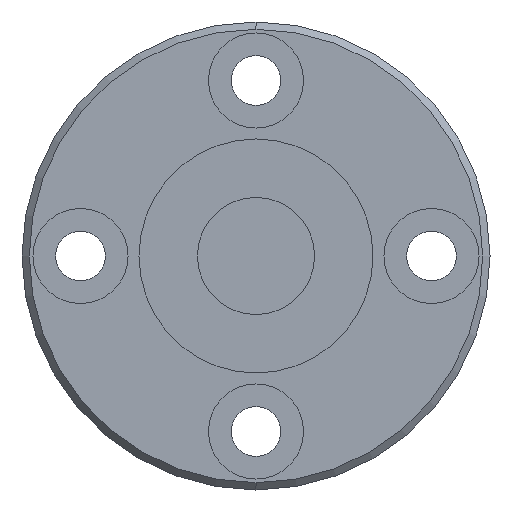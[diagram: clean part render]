
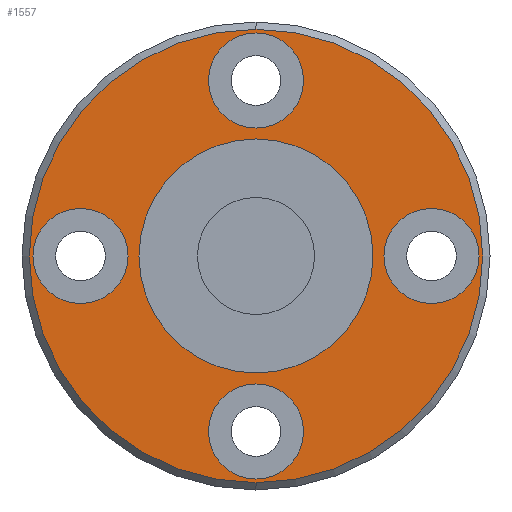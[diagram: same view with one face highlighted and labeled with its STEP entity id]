
A CAD part, left-side view. The second image highlights one B-rep face of the part: STEP entity #1557.
In plain terms, the highlighted planar face has unit normal (-1, 0, 0).
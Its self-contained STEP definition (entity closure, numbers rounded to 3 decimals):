
#33 = FACE_BOUND ( 'NONE', #84, .T. ) ;
#58 = CIRCLE ( 'NONE', #210, 15.5 ) ;
#65 = ORIENTED_EDGE ( 'NONE', *, *, #1017, .F. ) ;
#84 = EDGE_LOOP ( 'NONE', ( #2168, #294 ) ) ;
#91 = EDGE_CURVE ( 'NONE', #950, #1510, #1763, .T. ) ;
#94 = VERTEX_POINT ( 'NONE', #2193 ) ;
#107 = DIRECTION ( 'NONE',  ( -1., 0., 0. ) ) ;
#129 = AXIS2_PLACEMENT_3D ( 'NONE', #914, #1668, #188 ) ;
#147 = CIRCLE ( 'NONE', #1600, 3.25 ) ;
#161 = ORIENTED_EDGE ( 'NONE', *, *, #692, .T. ) ;
#162 = AXIS2_PLACEMENT_3D ( 'NONE', #426, #1727, #1164 ) ;
#172 = EDGE_CURVE ( 'NONE', #1510, #950, #281, .T. ) ;
#188 = DIRECTION ( 'NONE',  ( 0., 0., -1. ) ) ;
#189 = EDGE_CURVE ( 'NONE', #2197, #2047, #206, .T. ) ;
#206 = CIRCLE ( 'NONE', #162, 3.25 ) ;
#210 = AXIS2_PLACEMENT_3D ( 'NONE', #477, #1392, #1937 ) ;
#211 = FACE_BOUND ( 'NONE', #286, .T. ) ;
#281 = CIRCLE ( 'NONE', #2175, 8. ) ;
#286 = EDGE_LOOP ( 'NONE', ( #377, #600 ) ) ;
#294 = ORIENTED_EDGE ( 'NONE', *, *, #1679, .F. ) ;
#302 = CARTESIAN_POINT ( 'NONE',  ( 0., -12., -3.25 ) ) ;
#331 = CARTESIAN_POINT ( 'NONE',  ( 0., 0., 8. ) ) ;
#338 = CARTESIAN_POINT ( 'NONE',  ( 0., 0., -8. ) ) ;
#361 = FACE_BOUND ( 'NONE', #1460, .T. ) ;
#377 = ORIENTED_EDGE ( 'NONE', *, *, #1012, .F. ) ;
#380 = ORIENTED_EDGE ( 'NONE', *, *, #1337, .T. ) ;
#386 = PLANE ( 'NONE',  #129 ) ;
#388 = VERTEX_POINT ( 'NONE', #1421 ) ;
#414 = DIRECTION ( 'NONE',  ( 0., 0., 1. ) ) ;
#426 = CARTESIAN_POINT ( 'NONE',  ( 0., 12., 0. ) ) ;
#438 = DIRECTION ( 'NONE',  ( -1., 0., 0. ) ) ;
#447 = AXIS2_PLACEMENT_3D ( 'NONE', #1195, #438, #414 ) ;
#477 = CARTESIAN_POINT ( 'NONE',  ( 0., 0., 0. ) ) ;
#533 = EDGE_LOOP ( 'NONE', ( #988, #915 ) ) ;
#570 = EDGE_LOOP ( 'NONE', ( #380, #161 ) ) ;
#594 = EDGE_CURVE ( 'NONE', #1793, #1434, #1656, .T. ) ;
#598 = CARTESIAN_POINT ( 'NONE',  ( 0., -12., 0. ) ) ;
#600 = ORIENTED_EDGE ( 'NONE', *, *, #1291, .F. ) ;
#656 = CARTESIAN_POINT ( 'NONE',  ( 0., 0., 0. ) ) ;
#660 = AXIS2_PLACEMENT_3D ( 'NONE', #598, #2018, #1119 ) ;
#686 = DIRECTION ( 'NONE',  ( -1., 0., 0. ) ) ;
#692 = EDGE_CURVE ( 'NONE', #94, #2203, #985, .T. ) ;
#717 = EDGE_CURVE ( 'NONE', #2047, #2197, #1676, .T. ) ;
#720 = FACE_BOUND ( 'NONE', #533, .T. ) ;
#728 = VERTEX_POINT ( 'NONE', #989 ) ;
#743 = CARTESIAN_POINT ( 'NONE',  ( 0., 0., 15.25 ) ) ;
#746 = DIRECTION ( 'NONE',  ( -1., 0., 0. ) ) ;
#914 = CARTESIAN_POINT ( 'NONE',  ( 0., 16., 0. ) ) ;
#915 = ORIENTED_EDGE ( 'NONE', *, *, #189, .F. ) ;
#945 = DIRECTION ( 'NONE',  ( -1., 0., 0. ) ) ;
#949 = DIRECTION ( 'NONE',  ( -1., 0., 0. ) ) ;
#950 = VERTEX_POINT ( 'NONE', #331 ) ;
#970 = CARTESIAN_POINT ( 'NONE',  ( 0., 0., 0. ) ) ;
#972 = AXIS2_PLACEMENT_3D ( 'NONE', #1325, #945, #1987 ) ;
#981 = DIRECTION ( 'NONE',  ( 0., 0., 1. ) ) ;
#985 = CIRCLE ( 'NONE', #1301, 15.5 ) ;
#988 = ORIENTED_EDGE ( 'NONE', *, *, #717, .F. ) ;
#989 = CARTESIAN_POINT ( 'NONE',  ( 0., 0., -8.75 ) ) ;
#1012 = EDGE_CURVE ( 'NONE', #728, #1450, #2154, .T. ) ;
#1017 = EDGE_CURVE ( 'NONE', #388, #1936, #147, .T. ) ;
#1022 = DIRECTION ( 'NONE',  ( 0., 1., 0. ) ) ;
#1048 = CIRCLE ( 'NONE', #972, 3.25 ) ;
#1119 = DIRECTION ( 'NONE',  ( 0., 0., -1. ) ) ;
#1164 = DIRECTION ( 'NONE',  ( 0., 0., 1. ) ) ;
#1195 = CARTESIAN_POINT ( 'NONE',  ( 0., 12., 0. ) ) ;
#1211 = CARTESIAN_POINT ( 'NONE',  ( 0., 0., -15.5 ) ) ;
#1215 = CARTESIAN_POINT ( 'NONE',  ( 0., 0., -15.25 ) ) ;
#1232 = CARTESIAN_POINT ( 'NONE',  ( 0., 0., -12. ) ) ;
#1245 = CARTESIAN_POINT ( 'NONE',  ( 0., 0., 12. ) ) ;
#1291 = EDGE_CURVE ( 'NONE', #1450, #728, #2299, .T. ) ;
#1301 = AXIS2_PLACEMENT_3D ( 'NONE', #1701, #2254, #2286 ) ;
#1304 = FACE_OUTER_BOUND ( 'NONE', #570, .T. ) ;
#1325 = CARTESIAN_POINT ( 'NONE',  ( 0., 0., 12. ) ) ;
#1337 = EDGE_CURVE ( 'NONE', #2203, #94, #58, .T. ) ;
#1367 = CARTESIAN_POINT ( 'NONE',  ( 0., -12., 0. ) ) ;
#1392 = DIRECTION ( 'NONE',  ( -1., 0., 0. ) ) ;
#1421 = CARTESIAN_POINT ( 'NONE',  ( 0., 0., 8.75 ) ) ;
#1434 = VERTEX_POINT ( 'NONE', #302 ) ;
#1442 = DIRECTION ( 'NONE',  ( 0., -1., 0. ) ) ;
#1450 = VERTEX_POINT ( 'NONE', #1215 ) ;
#1460 = EDGE_LOOP ( 'NONE', ( #2326, #1599 ) ) ;
#1510 = VERTEX_POINT ( 'NONE', #338 ) ;
#1557 = ADVANCED_FACE ( 'NONE', ( #1304, #1822, #33, #211, #720, #361 ), #386, .F. ) ;
#1564 = CARTESIAN_POINT ( 'NONE',  ( 0., 12., 3.25 ) ) ;
#1572 = CARTESIAN_POINT ( 'NONE',  ( 0., 12., -3.25 ) ) ;
#1599 = ORIENTED_EDGE ( 'NONE', *, *, #172, .F. ) ;
#1600 = AXIS2_PLACEMENT_3D ( 'NONE', #1245, #686, #1442 ) ;
#1656 = CIRCLE ( 'NONE', #660, 3.25 ) ;
#1668 = DIRECTION ( 'NONE',  ( 1., 0., 0. ) ) ;
#1676 = CIRCLE ( 'NONE', #447, 3.25 ) ;
#1679 = EDGE_CURVE ( 'NONE', #1434, #1793, #1990, .T. ) ;
#1701 = CARTESIAN_POINT ( 'NONE',  ( 0., 0., 0. ) ) ;
#1702 = AXIS2_PLACEMENT_3D ( 'NONE', #1367, #949, #1891 ) ;
#1704 = DIRECTION ( 'NONE',  ( 0., 0., 1. ) ) ;
#1727 = DIRECTION ( 'NONE',  ( -1., 0., 0. ) ) ;
#1763 = CIRCLE ( 'NONE', #2333, 8. ) ;
#1792 = EDGE_CURVE ( 'NONE', #1936, #388, #1048, .T. ) ;
#1793 = VERTEX_POINT ( 'NONE', #2205 ) ;
#1822 = FACE_BOUND ( 'NONE', #1893, .T. ) ;
#1870 = DIRECTION ( 'NONE',  ( 0., 1., 0. ) ) ;
#1885 = AXIS2_PLACEMENT_3D ( 'NONE', #1903, #2066, #1870 ) ;
#1891 = DIRECTION ( 'NONE',  ( 0., 0., -1. ) ) ;
#1893 = EDGE_LOOP ( 'NONE', ( #2103, #65 ) ) ;
#1897 = AXIS2_PLACEMENT_3D ( 'NONE', #1232, #1950, #1022 ) ;
#1903 = CARTESIAN_POINT ( 'NONE',  ( 0., 0., -12. ) ) ;
#1936 = VERTEX_POINT ( 'NONE', #743 ) ;
#1937 = DIRECTION ( 'NONE',  ( 0., 0., -1. ) ) ;
#1950 = DIRECTION ( 'NONE',  ( -1., 0., 0. ) ) ;
#1987 = DIRECTION ( 'NONE',  ( 0., -1., 0. ) ) ;
#1990 = CIRCLE ( 'NONE', #1702, 3.25 ) ;
#2018 = DIRECTION ( 'NONE',  ( -1., 0., 0. ) ) ;
#2047 = VERTEX_POINT ( 'NONE', #1564 ) ;
#2066 = DIRECTION ( 'NONE',  ( -1., 0., 0. ) ) ;
#2103 = ORIENTED_EDGE ( 'NONE', *, *, #1792, .F. ) ;
#2154 = CIRCLE ( 'NONE', #1897, 3.25 ) ;
#2168 = ORIENTED_EDGE ( 'NONE', *, *, #594, .F. ) ;
#2175 = AXIS2_PLACEMENT_3D ( 'NONE', #656, #107, #981 ) ;
#2193 = CARTESIAN_POINT ( 'NONE',  ( 0., 0., 15.5 ) ) ;
#2197 = VERTEX_POINT ( 'NONE', #1572 ) ;
#2203 = VERTEX_POINT ( 'NONE', #1211 ) ;
#2205 = CARTESIAN_POINT ( 'NONE',  ( 0., -12., 3.25 ) ) ;
#2254 = DIRECTION ( 'NONE',  ( -1., 0., 0. ) ) ;
#2286 = DIRECTION ( 'NONE',  ( 0., 0., -1. ) ) ;
#2299 = CIRCLE ( 'NONE', #1885, 3.25 ) ;
#2326 = ORIENTED_EDGE ( 'NONE', *, *, #91, .F. ) ;
#2333 = AXIS2_PLACEMENT_3D ( 'NONE', #970, #746, #1704 ) ;
